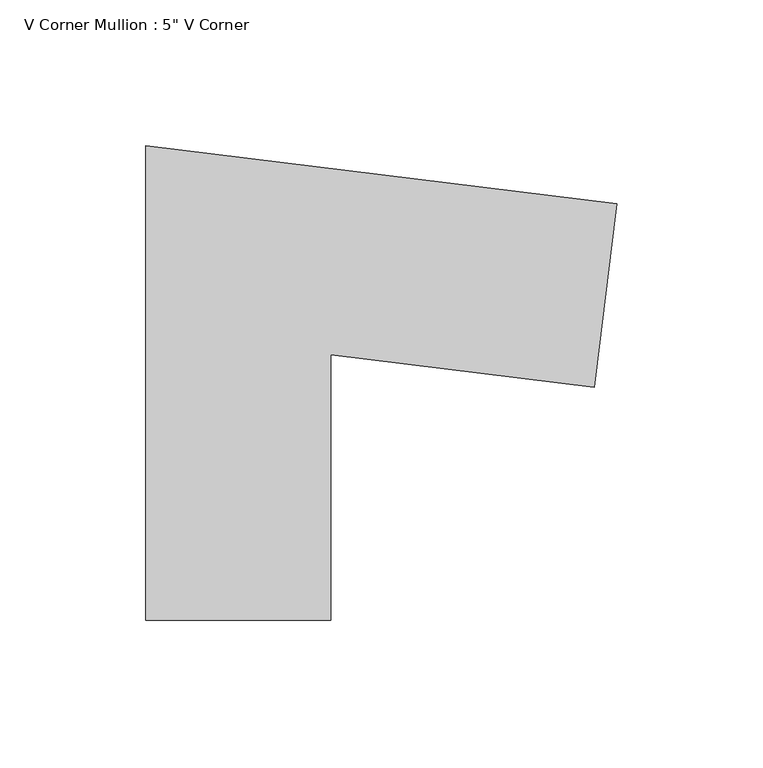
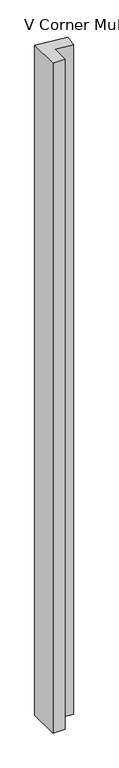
"""IFC4 building model written with IfcOpenShell, lengths in millimetres: member geometry."""

from ifc_helpers import new_model, si_unit, frame, origin, place, context, project, spatial, polyline, outline, extrude, source, transform, mapped, element, save


def member_2ab0c01c(model_context):
    return source(origin(), model_context, "Body", "SweptSolid", [
        extrude(outline(polyline([(66.0039553, 16.5092531), (-24.4300543, 27.6131532), (-24.4300543, -63.5), (-87.9300543, -63.5), (-87.9300543, 99.3868468), (73.7426586, 79.5359337), (66.0039553, 16.5092531)])), frame((0.0, 0.0, -3657.6), z_axis=(0.0, 0.0, 1.0), x_axis=(1.0, 0.0, 0.0)), (0.0, 0.0, 1.0), 3657.6),
    ])


if __name__ == "__main__":
    model = new_model("IFC4")
    model_context = context("Model", 3, world=origin())
    ifc_project = project(units=[si_unit("LENGTHUNIT", "METRE", prefix="MILLI")], contexts=[model_context])
    site = spatial("IfcSite", under=ifc_project)
    building = spatial("IfcBuilding", under=site)
    placement = place(None, origin())
    member_shape = member_2ab0c01c(model_context)
    element("IfcMember", 1, ObjectType="V Corner Mullion : 5\" V Corner", at=placement, inside=building, context=model_context, shape_type="MappedRepresentation", body=[
        mapped(member_shape, transform((0.0, 0.0, 0.0), x_axis=(1.0, 0.0, 0.0), y_axis=(0.0, 1.0, 0.0), z_axis=(0.0, 0.0, 1.0))),
    ])
    save(model, "model.ifc")
